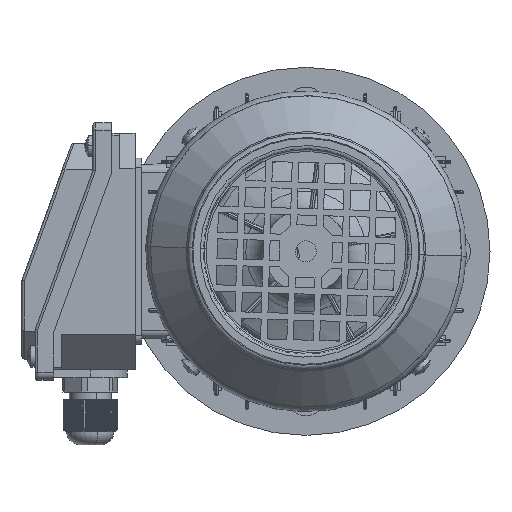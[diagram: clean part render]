
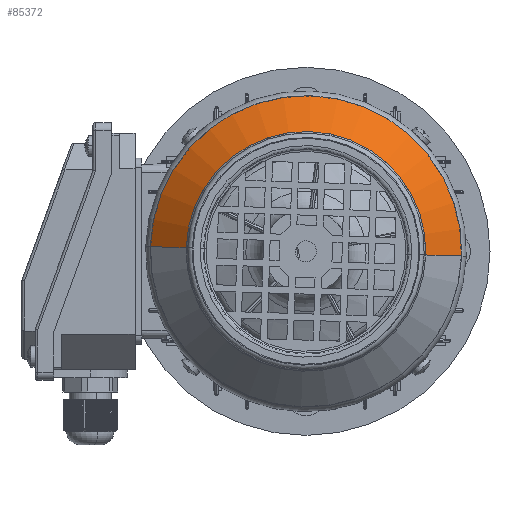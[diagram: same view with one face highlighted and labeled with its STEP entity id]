
A CAD part, left-side view. The second image highlights one B-rep face of the part: STEP entity #85372.
In plain terms, the highlighted conical face has half-angle 45 degrees and reference radius 59.243 mm.
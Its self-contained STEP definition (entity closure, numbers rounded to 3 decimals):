
#43405 = VERTEX_POINT ( 'NONE', #72405 ) ;
#43407 = VERTEX_POINT ( 'NONE', #72404 ) ;
#43468 = VERTEX_POINT ( 'NONE', #72442 ) ;
#43470 = VERTEX_POINT ( 'NONE', #72441 ) ;
#43482 = EDGE_CURVE ( 'NONE', #43470, #43407, #72477, .T. ) ;
#43503 = EDGE_CURVE ( 'NONE', #43468, #43405, #72465, .T. ) ;
#43527 = EDGE_CURVE ( 'NONE', #43470, #43468, #72548, .T. ) ;
#72404 = CARTESIAN_POINT ( 'NONE',  ( 45.757, 0., -59.243 ) ) ;
#72405 = CARTESIAN_POINT ( 'NONE',  ( 45.757, 0., 59.243 ) ) ;
#72441 = CARTESIAN_POINT ( 'NONE',  ( 59.414, 0., -45.586 ) ) ;
#72442 = CARTESIAN_POINT ( 'NONE',  ( 59.414, 0., 45.586 ) ) ;
#72465 = LINE ( 'NONE', #72517, #72516 ) ;
#72474 = DIRECTION ( 'NONE',  ( -0.707, 0., -0.707 ) ) ;
#72475 = VECTOR ( 'NONE', #72474, 1000. ) ;
#72476 = CARTESIAN_POINT ( 'NONE',  ( 45.757, 0., -59.243 ) ) ;
#72477 = LINE ( 'NONE', #72476, #72475 ) ;
#72515 = DIRECTION ( 'NONE',  ( -0.707, 0., 0.707 ) ) ;
#72516 = VECTOR ( 'NONE', #72515, 1000. ) ;
#72517 = CARTESIAN_POINT ( 'NONE',  ( 45.757, 0., 59.243 ) ) ;
#72544 = DIRECTION ( 'NONE',  ( 0., 0., 1. ) ) ;
#72545 = DIRECTION ( 'NONE',  ( -1., 0., 0. ) ) ;
#72546 = CARTESIAN_POINT ( 'NONE',  ( 59.414, 0., 0. ) ) ;
#72547 = AXIS2_PLACEMENT_3D ( 'NONE', #72546, #72545, #72544 ) ;
#72548 = CIRCLE ( 'NONE', #72547, 45.586 ) ;
#84367 = EDGE_LOOP ( 'NONE', ( #84458, #90346, #89759, #89637 ) ) ;
#84458 = ORIENTED_EDGE ( 'NONE', *, *, #43482, .F. ) ;
#85372 = ADVANCED_FACE ( 'NONE', ( #105502 ), #105499, .T. ) ;
#89637 = ORIENTED_EDGE ( 'NONE', *, *, #89657, .F. ) ;
#89657 = EDGE_CURVE ( 'NONE', #43407, #43405, #105677, .T. ) ;
#89759 = ORIENTED_EDGE ( 'NONE', *, *, #43503, .T. ) ;
#90346 = ORIENTED_EDGE ( 'NONE', *, *, #43527, .T. ) ;
#105487 = DIRECTION ( 'NONE',  ( 0., 0., 1. ) ) ;
#105488 = DIRECTION ( 'NONE',  ( -1., 0., 0. ) ) ;
#105489 = CARTESIAN_POINT ( 'NONE',  ( 45.757, 0., 0. ) ) ;
#105499 = CONICAL_SURFACE ( 'NONE', #105500, 59.243, 0.785 ) ;
#105500 = AXIS2_PLACEMENT_3D ( 'NONE', #105489, #105488, #105487 ) ;
#105502 = FACE_OUTER_BOUND ( 'NONE', #84367, .T. ) ;
#105673 = DIRECTION ( 'NONE',  ( 0., 0., 1. ) ) ;
#105674 = DIRECTION ( 'NONE',  ( -1., 0., 0. ) ) ;
#105675 = CARTESIAN_POINT ( 'NONE',  ( 45.757, 0., 0. ) ) ;
#105676 = AXIS2_PLACEMENT_3D ( 'NONE', #105675, #105674, #105673 ) ;
#105677 = CIRCLE ( 'NONE', #105676, 59.243 ) ;
